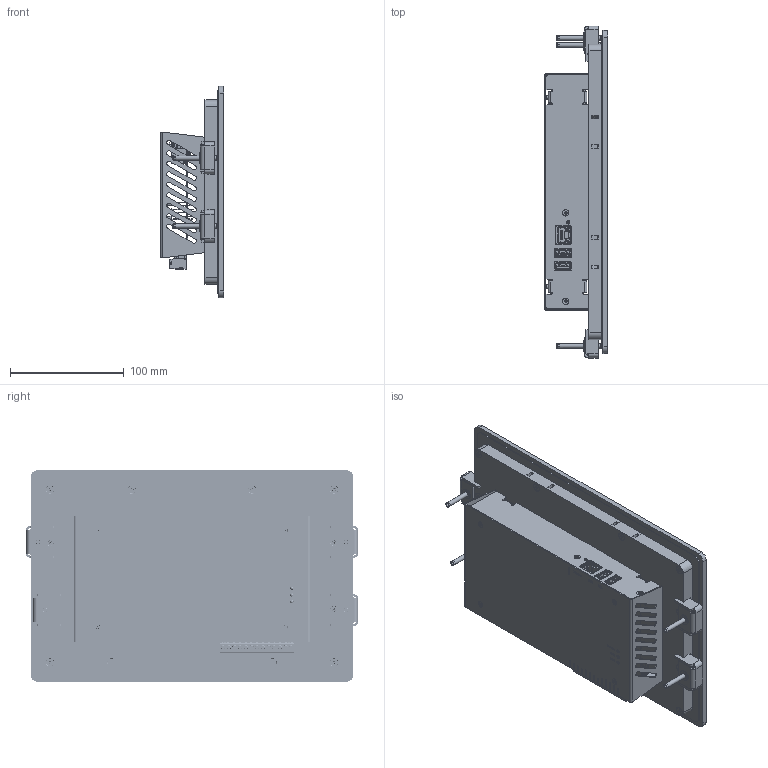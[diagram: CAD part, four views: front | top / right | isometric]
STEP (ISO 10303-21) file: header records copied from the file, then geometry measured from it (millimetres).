
FILE_DESCRIPTION(('STEP AP214'), '1');
FILE_NAME('NLcon-CED10 IP42', '', ('UNSPECIFIED'), ('UNSPECIFIED'), 'C3D Converter', 'C3D Toolkit', '');
FILE_SCHEMA(('AUTOMOTIVE_DESIGN { 1 0 10303 214 3 1 1}'));
Length unit declared in the file: millimetre
Assembly tree (11 placements, depth 4):
  (unnamed)
    (unnamed)
      (unnamed)
        (unnamed)
      (unnamed)
      (unnamed)
      (unnamed)
      (unnamed)
    (unnamed)  x4
Bounding box: 55.47 x 292 x 186 mm (x, y, z)
Volume: 166051.9 mm3; surface area: 440923.2 mm2
Topology: 17 solids, 33 shells, 7467 faces, 21365 edges, 14065 vertices
Faces by surface type: plane 4085, cylinder 1653, extrusion 1313, torus 214, cone 114, bspline 55, sphere 29, revolution 4
Full cylindrical faces by diameter (mm): 0.3 x341, 0.4 x46, 0.6 x1, 0.8 x9, 0.85 x7, 0.89 x8, 0.92 x8, 0.95 x1, 0.965 x7, 1 x4, 1.02 x4, 1.1 x1, 1.2 x1, 1.35 x8, 1.4 x2, 1.6 x11, 2.55 x2, 2.9 x1, 3 x27, 3.3 x2, 3.5 x7, 3.6 x1, 3.95 x13, 4 x22, 4.2 x12, 4.95 x8, 5 x4, 6 x4, 6.5 x4, 6.8 x12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
Entity records: 355192 total; most frequent: CARTESIAN_POINT 111921, ORIENTED_EDGE 40061, DIRECTION 32985, EDGE_CURVE 20088, VECTOR 14013, VERTEX_POINT 13679, LINE 12700, AXIS2_PLACEMENT_3D 9484
